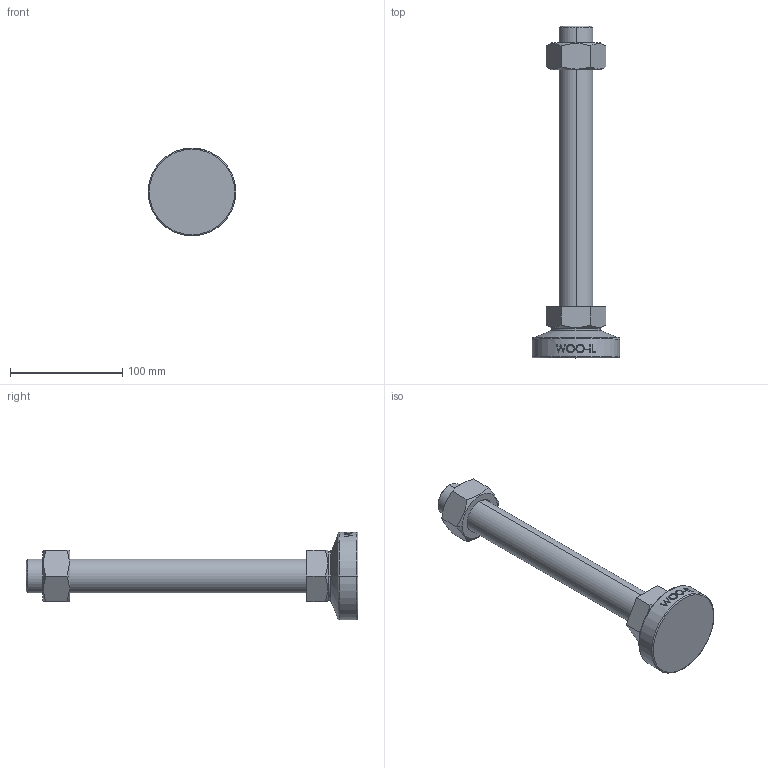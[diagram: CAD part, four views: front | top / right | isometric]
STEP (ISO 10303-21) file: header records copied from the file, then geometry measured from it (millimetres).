
FILE_DESCRIPTION (( 'STEP AP214' ), '1' );
FILE_NAME ('MFB78-M30-250.step', '2022-06-27T08:36:20', ( '' ), ( '' ), 'SwSTEP 2.0', 'SolidWorks 2019', '' );
FILE_SCHEMA (( 'AUTOMOTIVE_DESIGN' ));
Length unit declared in the file: millimetre
Products named in the file (1): MFB78-M30-250
Bounding box: 78 x 295.5 x 78 mm (x, y, z)
Volume: 344584.1 mm3; surface area: 52252.6 mm2
Topology: 3 solids, 3 shells, 97 faces, 225 edges, 144 vertices
Faces by surface type: plane 47, cylinder 16, bspline 16, cone 14, torus 4
Entity records: 4305 total; most frequent: CARTESIAN_POINT 2175, ORIENTED_EDGE 450, DIRECTION 385, EDGE_CURVE 225, AXIS2_PLACEMENT_3D 144, VERTEX_POINT 144, EDGE_LOOP 109, ADVANCED_FACE 97
